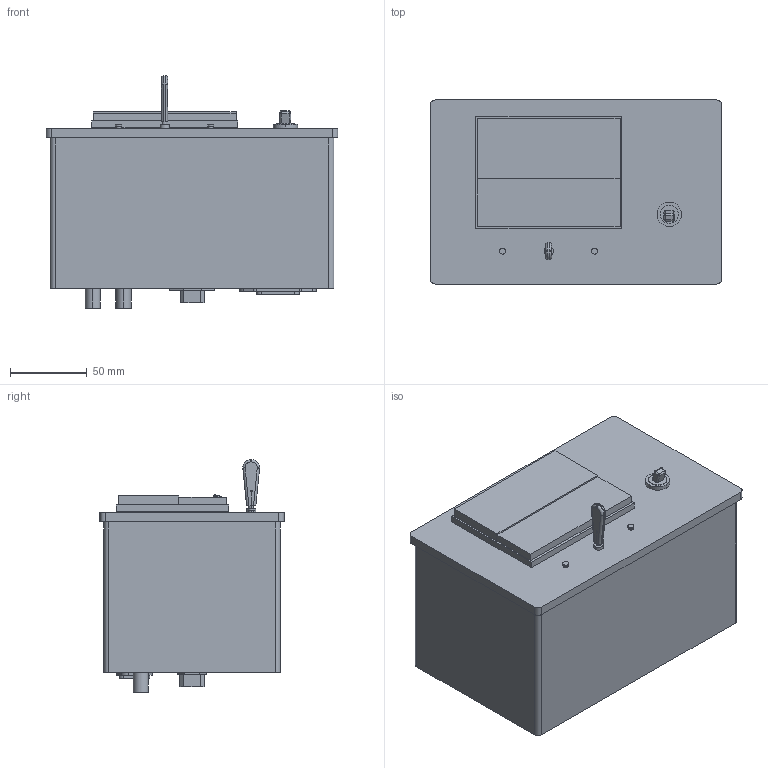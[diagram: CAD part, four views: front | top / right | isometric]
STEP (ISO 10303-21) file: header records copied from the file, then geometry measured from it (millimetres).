
FILE_DESCRIPTION(/* description */ ('VariCAD 2014-2.05 AP-214'),/* implementation_level */ '2;1');
FILE_NAME(/* name */ 'Ant93Steuerung.stp',/* time_stamp */ '2016-03-04T19:52:19+01:00',/* author */ (''),/* organization */ (''),/* preprocessor_version */ 'ST-DEVELOPER v14',/* originating_system */ 'VariCAD 2014-2.05; kernel version (20130303)',/* authorisation */ '');
FILE_SCHEMA (('AUTOMOTIVE_DESIGN'));
Length unit declared in the file: millimetre
Products named in the file (29): Ant93Steuerung; Schraube M3 x 12
Assembly tree (28 placements, depth 2):
  Ant93Steuerung
    (unnamed)
    (unnamed)
    (unnamed)
    (unnamed)
    (unnamed)
    (unnamed)
    (unnamed)
    Schraube M3 x 12
    Schraube M3 x 12
    Schraube M3 x 12
    (unnamed)
    (unnamed)
    (unnamed)
    (unnamed)
    (unnamed)
    (unnamed)
    (unnamed)
    (unnamed)
    (unnamed)
    (unnamed)
    (unnamed)
    (unnamed)
    (unnamed)
    (unnamed)
    (unnamed)
    (unnamed)
    (unnamed)
    (unnamed)
Bounding box: 190 x 120 x 151.65 mm (x, y, z)
Volume: 750255.6 mm3; surface area: 412228.9 mm2
Topology: 28 solids, 28 shells, 908 faces, 2163 edges, 1382 vertices
Faces by surface type: plane 550, cylinder 324, cone 18, torus 8, sphere 8
Entity records: 28848 total; most frequent: DIRECTION 4783, CARTESIAN_POINT 4666, ORIENTED_EDGE 4310, EDGE_CURVE 2155, AXIS2_PLACEMENT_3D 1647, LINE 1489, VECTOR 1489, VERTEX_POINT 1382
